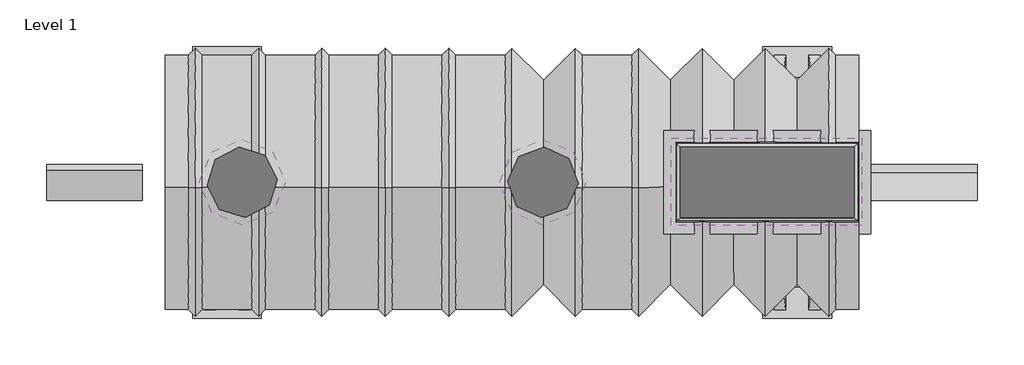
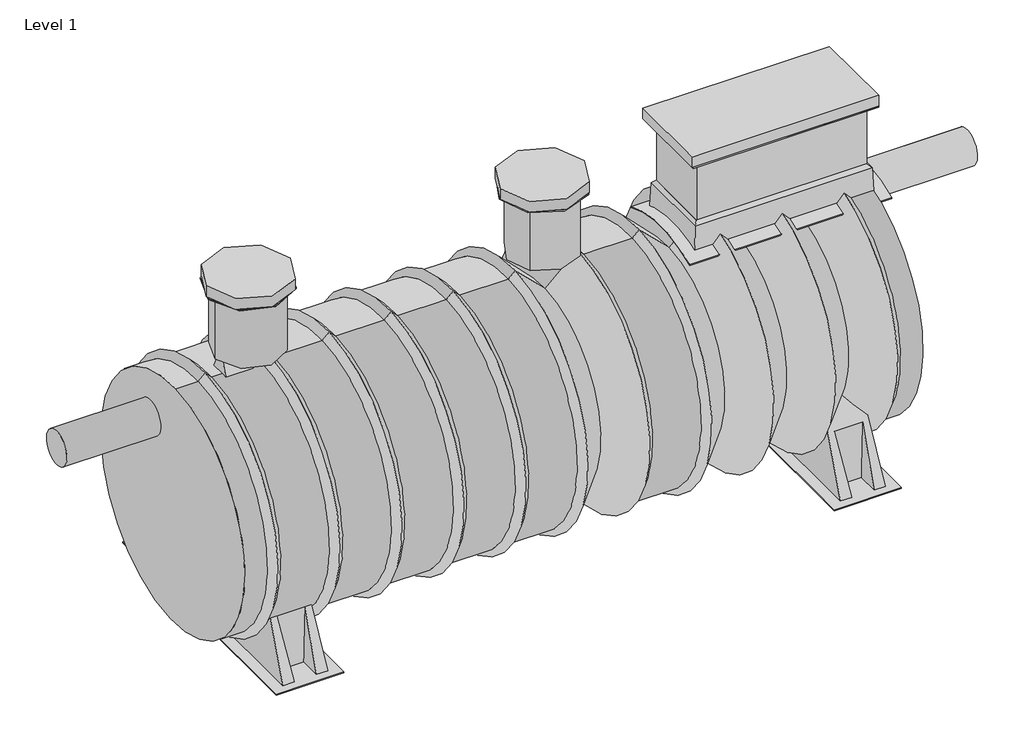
# One storey, incomplete: 12 proxies.
"""IFC4 building model written with IfcOpenShell, lengths in millimetres."""

from ifc_helpers import new_model, si_unit, origin, place, context, project, spatial, transform, mapped, element, save
from components import generic_models_de51d8ae, generic_models_8ad0125c, generic_models_40013f77, generic_models_2a316d6d, generic_models_729f58d3, generic_models_efb8525f, generic_models_b990888b, iso_4065_pipe_dn315x2_5xs63_1365_7b087b5c, iso_4065_pipe_dn315x2_5xs63_1365_1_8fdb7b6d

model = new_model("IFC4")

# Units and contexts
model_context = context("Model", 3, world=origin())
ifc_project = project(units=[si_unit("LENGTHUNIT", "METRE", prefix="MILLI")], contexts=[model_context])

# Site, building, storey
site = spatial("IfcSite", under=ifc_project)
building = spatial("IfcBuilding", under=site)
storey = spatial("IfcBuildingStorey", under=building, Name="Level 1", Elevation=0.0)

# Proxies
placement = place(None, origin())
generic_models_shape = generic_models_de51d8ae(model_context)
element("IfcBuildingElementProxy", 1, Name="SU.600mmDia.ManwayRiser.600-10", ObjectType="SU.600mmDia.ManwayRiser.600-10", at=placement, inside=storey, context=model_context, shape_type="MappedRepresentation", body=[
    mapped(generic_models_shape, transform((-3909.9837873, 0.0, 929.9492089), x_axis=(0.9963198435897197, 0.0857132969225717, 0.0), y_axis=(0.0, 0.0, 1.0000000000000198), z_axis=(0.0857132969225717, -0.9963198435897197, 0.0))),
])
element("IfcBuildingElementProxy", 2, Name="SU.600mmDia.ManwayRiser.600-10", ObjectType="SU.600mmDia.ManwayRiser.600-10", at=placement, inside=storey, context=model_context, shape_type="MappedRepresentation", body=[
    mapped(generic_models_shape, transform((-1290.9746197, 0.0, 929.9492089), x_axis=(-0.7350844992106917, -0.6779755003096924, 0.0), y_axis=(0.0, 0.0, 0.9999999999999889), z_axis=(-0.6779755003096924, 0.7350844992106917, 0.0))),
])
generic_models_2_shape = generic_models_8ad0125c(model_context)
element("IfcBuildingElementProxy", 3, Name="SU.MRADAPTOR.2200.600Lx1500W", ObjectType="SU.MRADAPTOR.2200.600Lx1500W", at=placement, inside=storey, context=model_context, shape_type="MappedRepresentation", body=[
    mapped(generic_models_2_shape, transform((664.0000542, 0.0, 762.9492089), x_axis=(0.0, -1.0, 0.0), y_axis=(0.0, 0.0, 1.0), z_axis=(-1.0, 0.0, 0.0))),
])
generic_models_3_shape = generic_models_40013f77(model_context)
element("IfcBuildingElementProxy", 4, Name="SU.HS.FOOT.2200", ObjectType="SU.HS.FOOT.2200", at=placement, inside=storey, context=model_context, shape_type="MappedRepresentation", body=[
    mapped(generic_models_3_shape, transform((-4242.4726848, 0.0, -1480.0507911), x_axis=(0.0, 1.0, 0.0), y_axis=(0.0, 0.0, 1.0), z_axis=(1.0, 0.0, 0.0))),
])
element("IfcBuildingElementProxy", 5, Name="SU.HS.FOOT.2200", ObjectType="SU.HS.FOOT.2200", at=placement, inside=storey, context=model_context, shape_type="MappedRepresentation", body=[
    mapped(generic_models_3_shape, transform((724.5267056, 0.0, -1480.0507911), x_axis=(0.0, 1.0, 0.0), y_axis=(0.0, 0.0, 1.0), z_axis=(1.0, 0.0, 0.0))),
])
generic_models_4_shape = generic_models_2a316d6d(model_context)
element("IfcBuildingElementProxy", 6, Name="600mmDia Manway Cover", ObjectType="600mmDia Manway Cover", at=placement, inside=storey, context=model_context, shape_type="MappedRepresentation", body=[
    mapped(generic_models_4_shape, transform((-1290.9746197, 0.0, 1529.9492089), x_axis=(1.0, 0.0, 0.0), y_axis=(0.0, 0.0, 1.0), z_axis=(0.0, -1.0, 0.0))),
])
element("IfcBuildingElementProxy", 7, Name="600mmDia Manway Cover", ObjectType="600mmDia Manway Cover", at=placement, inside=storey, context=model_context, shape_type="MappedRepresentation", body=[
    mapped(generic_models_4_shape, transform((-3909.9837873, 0.0, 1529.9492089), x_axis=(1.0, 0.0, 0.0), y_axis=(0.0, 0.0, 1.0), z_axis=(0.0, -1.0, 0.0))),
])
generic_models_5_shape = generic_models_729f58d3(model_context)
element("IfcBuildingElementProxy", 8, Name="600x1500 Manway Cover Class D ST-02", ObjectType="600x1500 Manway Cover Class D ST-02", at=placement, inside=storey, context=model_context, shape_type="MappedRepresentation", body=[
    mapped(generic_models_5_shape, transform((659.0000542, 4.7988121, 1529.9492089), x_axis=(0.0, 1.0, 0.0), y_axis=(0.0, 0.0, 1.0), z_axis=(1.0, 0.0, 0.0))),
])
generic_models_6_shape = generic_models_efb8525f(model_context)
element("IfcBuildingElementProxy", 9, Name="WIN.HB.2200x6040L-10", ObjectType="WIN.HB.2200x6040L-10", at=placement, inside=storey, context=model_context, shape_type="MappedRepresentation", body=[
    mapped(generic_models_6_shape, transform((1460.0000542, 0.0, -320.0507911), x_axis=(1.000000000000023, 0.0, 0.0), y_axis=(0.0, -0.04067764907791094, 0.999172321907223), z_axis=(0.0, -0.999172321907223, -0.04067764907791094))),
])
generic_models_7_shape = generic_models_b990888b(model_context)
element("IfcBuildingElementProxy", 10, Name="600x1500 Manway Riser", ObjectType="600x1500 Manway Riser", at=placement, inside=storey, context=model_context, shape_type="MappedRepresentation", body=[
    mapped(generic_models_7_shape, transform((664.0000542, -0.2011879, 1529.9492089), x_axis=(0.0, 1.0, 0.0), y_axis=(0.0, 0.0, 1.0), z_axis=(1.0, 0.0, 0.0))),
])
iso_4065_pipe_dn315x2_5xs63_1365_shape = iso_4065_pipe_dn315x2_5xs63_1365_7b087b5c(model_context)
element("IfcBuildingElementProxy", 11, Name="ISO 4065 Pipe DN315x2.5xS63 - 1365", ObjectType="ISO 4065 Pipe DN315x2.5xS63 - 1365", at=placement, inside=storey, context=model_context, shape_type="MappedRepresentation", body=[
    mapped(iso_4065_pipe_dn315x2_5xs63_1365_shape, transform((-4779.9999458, 0.0, 569.9492089), x_axis=(-1.0000000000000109, 0.0, 0.0), y_axis=(0.0, -0.643467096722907, -0.7654737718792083), z_axis=(0.0, -0.7654737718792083, 0.643467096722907))),
])
iso_4065_pipe_dn315x2_5xs63_1365_1_shape = iso_4065_pipe_dn315x2_5xs63_1365_1_8fdb7b6d(model_context)
element("IfcBuildingElementProxy", 12, Name="ISO 4065 Pipe DN315x2.5xS63 - 1365_1", ObjectType="ISO 4065 Pipe DN315x2.5xS63 - 1365_1", at=placement, inside=storey, context=model_context, shape_type="MappedRepresentation", body=[
    mapped(iso_4065_pipe_dn315x2_5xs63_1365_1_shape, transform((1464.0000542, 0.0, 569.9492089), x_axis=(1.0000000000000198, 0.0, 0.0), y_axis=(0.0, 0.5027274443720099, 0.8644449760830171), z_axis=(0.0, -0.8644449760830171, 0.5027274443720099))),
])

save(model, "model.ifc")
